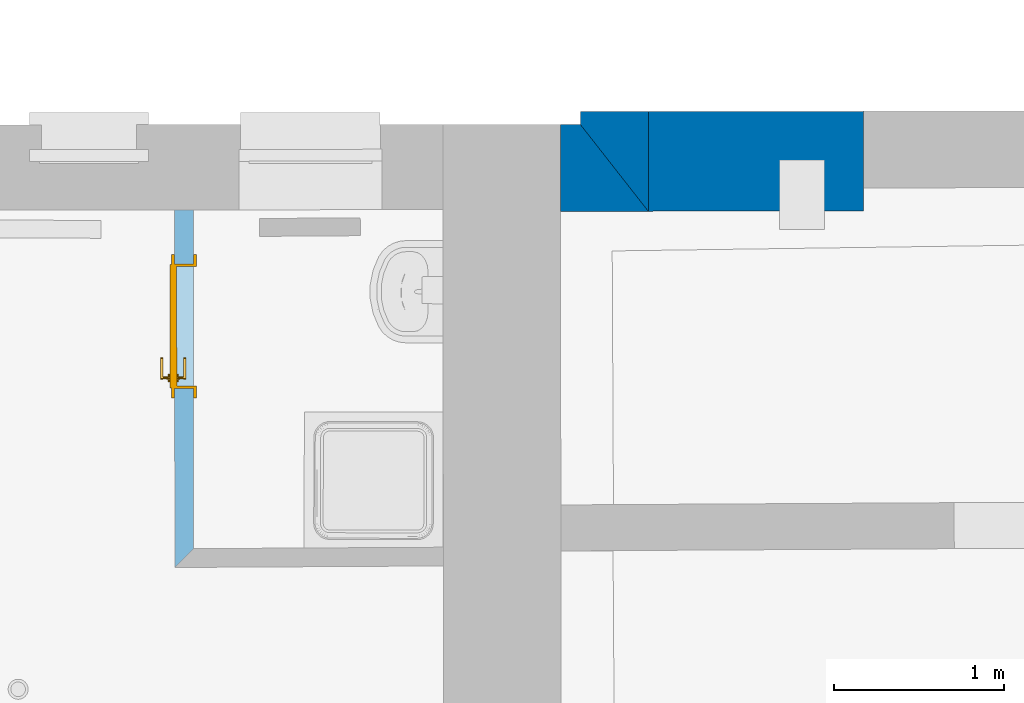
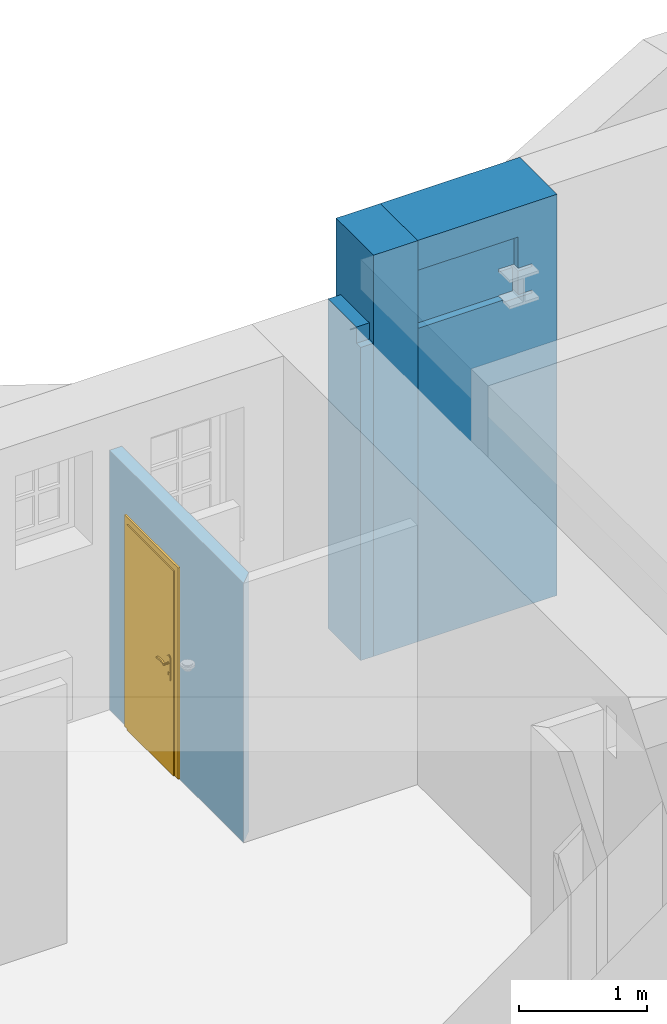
# One storey, part 94 of 196: 3 walls, 1 door, 2 openings, plus 1 element that does not belong to this part.
"""IFC2X3 building model written with IfcOpenShell, lengths in metres."""

from ifc_helpers import new_model, entity, si_unit, converted_unit, derived_unit, money_unit, direction, frame, origin_with_axes, origin_2d_with_axis, place, context, subcontext, project, spatial, polyline, rectangle, outline, extrude, boolean, faceted_brep, material, layer, layer_set, layer_usage, type_object, element, fill, save


model = new_model("IFC2X3")

# Units and contexts
model_context = context("Model", 3, precision=1e-05, world=origin_with_axes(), true_north=direction((0.0, 1.0)))
body_context = subcontext(model_context, "Body", "Model", "MODEL_VIEW")
ifc_project = project(units=[si_unit("LENGTHUNIT", "METRE"), si_unit("AREAUNIT", "SQUARE_METRE"), si_unit("VOLUMEUNIT", "CUBIC_METRE"), converted_unit("PLANEANGLEUNIT", "DEGREE", entity("IfcPlaneAngleMeasure", 0.0174532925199), si_unit("PLANEANGLEUNIT", "RADIAN"), dimensions=[0, 0, 0, 0, 0, 0, 0]), money_unit("EUR"), converted_unit("TIMEUNIT", "Year", entity("IfcTimeMeasure", 31556926.0), si_unit("TIMEUNIT", "SECOND"), dimensions=[0, 0, 1, 0, 0, 0, 0]), si_unit("MASSUNIT", "GRAM", prefix="KILO"), si_unit("THERMODYNAMICTEMPERATUREUNIT", "DEGREE_CELSIUS"), si_unit("LUMINOUSINTENSITYUNIT", "LUMEN"), si_unit("ENERGYUNIT", "JOULE", prefix="MEGA"), derived_unit("THERMALCONDUCTANCEUNIT", [(si_unit("POWERUNIT", "WATT"), 1), (si_unit("LENGTHUNIT", "METRE"), -1), (si_unit("THERMODYNAMICTEMPERATUREUNIT", "KELVIN"), -1)]), derived_unit("SPECIFICHEATCAPACITYUNIT", [(si_unit("ENERGYUNIT", "JOULE"), 1), (si_unit("MASSUNIT", "GRAM", prefix="KILO"), -1), (si_unit("THERMODYNAMICTEMPERATUREUNIT", "KELVIN"), -1)]), derived_unit("MASSDENSITYUNIT", [(si_unit("MASSUNIT", "GRAM", prefix="KILO"), 1), (si_unit("VOLUMEUNIT", "CUBIC_METRE"), -1)])], contexts=[model_context])

# Site, building, storey
site_placement = place(None, origin_with_axes())
site = spatial("IfcSite", under=ifc_project, at=site_placement, Name="Gelände", CompositionType="ELEMENT")
building_placement = place(site_placement, origin_with_axes())
building = spatial("IfcBuilding", under=site, at=building_placement, Name="Gebäude", CompositionType="ELEMENT")
storey_placement = place(building_placement, frame((0.0, 0.0, -3.0), z_axis=(0.0, 0.0, 1.0), x_axis=(1.0, 0.0, 0.0)))
storey = spatial("IfcBuildingStorey", under=building, at=storey_placement, Name="KELLERGESCHOSS", CompositionType="ELEMENT", Elevation=-3.0)

# Wall
ifc_material_1 = material(Name="05_ALLGEMEIN - TRAGENDE BAUTEILE")
wall_type_1 = type_object("IfcWallType", Name="05_ALLGEMEIN - TRAGENDE BAUTEILE 400", PredefinedType="ELEMENTEDWALL")
wall_1_placement = place(storey_placement, frame((3.73053516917, 26.1880653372, -0.36), z_axis=(0.0, 0.0, 1.0), x_axis=(0.0, -1.0, 0.0)))
element("IfcWall", 1, at=wall_1_placement, inside=storey, type_object=wall_type_1, material=ifc_material_1, Name="Wand-037", ObjectType="ELEMENTEDWALL", context=body_context, shape_type="CSG", body=[
    boolean("DIFFERENCE", extrude(outline(polyline([(-0.000666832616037, 0.0), (0.585461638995, 0.0), (0.585461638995, 0.4), (-0.000666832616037, 0.4), (-0.000666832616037, 0.0)])), origin_with_axes(), (0.0, 0.0, 1.0), 3.835), faceted_brep([(0.0744615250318, 0.0, 0.0), (0.584335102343, 0.399326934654, 0.0), (0.584333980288, 0.4, 0.0), (0.585461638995, 0.4, 0.0), (0.585461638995, 0.0, 0.0), (0.0744615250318, 0.0, 3.14999999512), (0.519095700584, 0.348232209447, 3.14999999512), (0.519095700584, 0.348232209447, 2.99482766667), (0.584335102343, 0.399326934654, 2.99482766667), (0.584333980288, 0.4, 2.99482766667), (0.585461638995, 0.4, 3.835), (-0.000666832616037, 0.4, 0.0), (-0.000666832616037, 0.4, 3.835), (0.585461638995, 0.0, 3.835), (0.0744615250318, 0.0, 3.835), (0.0744615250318, 0.0509718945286, 3.14999999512), (0.51908386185, 0.355333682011, 3.14999999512), (0.51908386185, 0.355333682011, 2.99482766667), (0.0, 0.0, 0.0), (0.0, 0.0, 3.14999999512), (-0.000666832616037, 0.0, 0.0), (-0.000666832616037, 0.0, 3.835), (0.0744615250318, 0.0509718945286, 3.835), (0.0, 0.0, 3.835)], [[[0, 1, 2, 3, 4]], [[1, 0, 5, 6, 7, 8]], [[2, 1, 8, 9]], [[10, 3, 2, 11, 12]], [[13, 4, 3, 10]], [[5, 0, 4, 13, 14]], [[6, 5, 15, 16]], [[17, 7, 6, 16]], [[9, 8, 7, 17]], [[18, 2, 9, 17, 16, 15, 19]], [[2, 18, 20, 11]], [[12, 11, 20, 21]], [[22, 14, 13, 10, 12, 21, 23]], [[14, 22, 15, 5]], [[22, 23, 19, 15]], [[19, 23, 21, 20, 18]]])),
])

# Wall, opening
wall_type_2 = type_object("IfcWallType", Name="05_ALLGEMEIN - TRAGENDE BAUTEILE 585", PredefinedType="ELEMENTEDWALL")
wall_2_placement = place(storey_placement, frame((5.3918223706, 26.1908348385, -0.36), z_axis=(0.0, 0.0, 1.0), x_axis=(-0.999998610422, -0.00166707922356, 0.0)))
wall_2 = element("IfcWall", 2, at=wall_2_placement, inside=storey, type_object=wall_type_2, material=ifc_material_1, Name="Wand-036", ObjectType="ELEMENTEDWALL", context=body_context, shape_type="CSG", body=[
    boolean("DIFFERENCE", extrude(outline(polyline([(0.0, 0.0), (1.66226475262, 0.0), (1.66226475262, 0.585), (0.0, 0.585), (0.0, 0.0)])), origin_with_axes(), (0.0, 0.0, 1.0), 3.835), faceted_brep([(0.352188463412, 0.585, 3.2241582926), (0.227438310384, 0.585, 3.2241582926), (0.227438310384, 0.585, 3.2506582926), (0.356306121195, 0.585, 3.2506582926), (0.356306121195, 0.585, 3.55), (1.26226419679, 0.585, 3.55), (1.26226419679, 0.585, 3.835), (1.66226475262, 0.585, 3.835), (1.66226475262, 0.585, 0.0), (1.26226419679, 0.585, 0.0), (1.26226419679, 0.585, 2.99482766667), (0.492438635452, 0.585, 2.99482766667), (0.492438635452, 0.585, 2.9726582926), (0.227438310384, 0.585, 2.9726582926), (0.227438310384, 0.585, 2.9991582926), (0.352188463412, 0.585, 2.9991582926), (0.352656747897, 0.286027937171, 3.2241582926), (0.227906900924, 0.28583253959, 3.2241582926), (0.227906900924, 0.28583253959, 3.2506582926), (0.492906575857, 0.286247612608, 3.2506582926), (0.492540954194, 0.519675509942, 3.2506582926), (0.356306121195, 0.519675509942, 3.2506582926), (0.356306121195, 0.519675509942, 3.55), (1.30682167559, 0.519675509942, 3.55), (1.66128950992, 0.0, 3.835), (1.30682167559, 0.519675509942, 2.99482766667), (1.66128950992, 0.0, 0.0), (1.66226475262, 0.0, 3.835), (1.66226475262, 0.0, 0.0), (0.492540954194, 0.519675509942, 2.99482766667), (0.492540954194, 0.519675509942, 2.9991582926), (0.492906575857, 0.286247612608, 2.9991582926), (0.492906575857, 0.286247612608, 2.9726582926), (0.227906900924, 0.28583253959, 2.9726582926), (0.227906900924, 0.28583253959, 2.9991582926), (0.352656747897, 0.286027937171, 2.9991582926), (0.368156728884, 0.286052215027, 2.9991582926), (0.368156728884, 0.286052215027, 3.2241582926), (0.492906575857, 0.286247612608, 3.2241582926), (0.492540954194, 0.519675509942, 3.2241582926), (0.367790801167, 0.519675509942, 3.2241582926), (0.367790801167, 0.519675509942, 2.9991582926)], [[[0, 1, 2, 3, 4, 5, 6, 7, 8, 9, 10, 11, 12, 13, 14, 15]], [[1, 0, 16, 17]], [[2, 1, 17, 18]], [[3, 2, 18, 19, 20, 21]], [[4, 3, 21, 22]], [[5, 4, 22, 23]], [[24, 6, 5, 23, 25, 10, 9, 26]], [[6, 24, 27, 7]], [[27, 28, 8, 7]], [[26, 9, 8, 28]], [[11, 10, 25, 29]], [[12, 11, 29, 30, 31, 32]], [[13, 12, 32, 33]], [[14, 13, 33, 34]], [[15, 14, 34, 35]], [[0, 15, 35, 16]], [[17, 16, 35, 34, 33, 32, 31, 36, 37, 38, 19, 18]], [[20, 19, 38, 39]], [[20, 39, 40, 41, 30, 29, 25, 23, 22, 21]], [[24, 26, 28, 27]], [[41, 36, 31, 30]], [[40, 37, 36, 41]], [[39, 38, 37, 40]]])),
])
opening_1_placement = place(wall_2_placement, frame((1.09400749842, 0.0, 2.99482766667), z_axis=(0.0, 0.0, 1.0), x_axis=(1.0, 0.0, 0.0)))
element("IfcOpeningElement", 3, at=opening_1_placement, cuts=wall_2, Name="Fenster-019", ObjectType="Recess", context=body_context, shape_type="SweptSolid", body=[
    extrude(rectangle(XDim=1.47851416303, YDim=0.554, at=origin_2d_with_axis()), frame((0.0, 0.519675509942, 0.277), z_axis=(0.0, 1.0, 0.0), x_axis=(-1.0, 0.0, 0.0)), (0.0, 0.0, 1.0), 0.650324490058),
])

# Wall
wall_type_3 = type_object("IfcWallType", Name="05_ALLGEMEIN - TRAGENDE BAUTEILE 511", PredefinedType="ELEMENTEDWALL")
wall_3_placement = place(storey_placement, frame((3.73053516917, 26.1136038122, -0.36), z_axis=(0.0, 0.0, 1.0), x_axis=(-0.99999977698, -0.000667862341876, 0.0)))
element("IfcWall", 4, at=wall_3_placement, inside=storey, type_object=wall_type_3, material=ifc_material_1, Name="Wand-030", ObjectType="ELEMENTEDWALL", context=body_context, shape_type="CSG", body=[
    boolean("DIFFERENCE", extrude(outline(polyline([(-0.400000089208, 0.0), (0.806528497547, 0.0), (0.806528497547, 0.511), (-0.400000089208, 0.511), (-0.400000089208, 0.0)])), origin_with_axes(), (0.0, 0.0, 1.0), 3.14999999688), faceted_brep([(0.116528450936, 0.0, 0.0), (0.116340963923, 0.510655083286, 0.0), (-0.398986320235, 0.510140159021, 0.0), (0.0, 0.0, 0.0), (-0.400000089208, 0.0, 0.0), (-0.400000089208, 0.511, 0.0), (0.806528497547, 0.511, 0.0), (0.806528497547, 0.0, 0.0), (0.116528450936, 0.0, 3.14999999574), (0.116364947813, 0.445330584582, 3.14999999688), (0.116364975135, 0.445330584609, 2.99482766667), (0.116340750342, 0.510655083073, 2.99482766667), (0.116340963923, 0.510655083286, 0.12), (-0.398986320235, 0.510140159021, 2.99482766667), (-0.347935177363, 0.444866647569, 2.99482766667), (-0.347935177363, 0.444866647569, 3.14999999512), (0.0, 0.0, 3.14999999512), (-0.400000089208, 0.0, 3.14999999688), (-0.400000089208, 0.511, 3.14999999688), (0.806528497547, 0.511, 3.14999999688), (0.806528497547, 0.0, 3.14999999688)], [[[0, 1, 2, 3, 4, 5, 6, 7]], [[1, 0, 8, 9, 10, 11, 12]], [[2, 1, 12, 11, 13]], [[3, 2, 13, 14, 15, 16]], [[3, 16, 17, 4]], [[18, 5, 4, 17]], [[19, 6, 5, 18]], [[20, 7, 6, 19]], [[8, 0, 7, 20]], [[9, 8, 20, 19, 18, 17, 16, 15]], [[9, 15, 14, 10]], [[11, 10, 14, 13]]])),
])

# Wall, opening, door
ifc_material_2 = material(Name="43_Gipskarton")
ifc_layer = layer(ifc_material_2, 0.11, ventilated="UNKNOWN")
ifc_layer_set = layer_set([ifc_layer], Name="43_Gipskarton 0.11")
ifc_layer_usage = layer_usage(ifc_layer_set, "AXIS2", "NEGATIVE", 0.0)
wall_type_4 = type_object("IfcWallType", Name="43_Gipskarton 110", PredefinedType="ELEMENTEDWALL")
wall_4_placement = place(storey_placement, frame((1.35013617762, 23.5124330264, -0.04), z_axis=(0.0, 0.0, 1.0), x_axis=(-0.000385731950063, 0.999999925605, 0.0)))
wall_4 = element("IfcWallStandardCase", 5, at=wall_4_placement, inside=storey, type_object=wall_type_4, material=ifc_layer_usage, Name="Wand-039", ObjectType="ELEMENTEDWALL", context=body_context, shape_type="SweptSolid", body=[
    extrude(outline(polyline([(0.110599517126, -0.11), (2.09961154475, -0.11), (2.0995805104, 0.0), (0.0, 0.0), (0.110599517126, -0.11)])), origin_with_axes(), (0.0, 0.0, 1.0), 2.48),
])
opening_2_placement = place(wall_4_placement, frame((1.41617725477, 0.0, 0.00932683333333), z_axis=(0.0, 0.0, 1.0), x_axis=(1.0, 0.0, 0.0)))
opening_2 = element("IfcOpeningElement", 6, at=opening_2_placement, cuts=wall_4, Name="Tür-022", context=body_context, shape_type="SweptSolid", body=[
    extrude(rectangle(XDim=0.732787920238, YDim=1.964951, at=origin_2d_with_axis()), frame((0.0, -0.11, 0.9824755), z_axis=(0.0, 1.0, 0.0), x_axis=(1.0, 0.0, 0.0)), (0.0, 0.0, 1.0), 0.33),
])
door_style = type_object("IfcDoorStyle", Name="Blockrahmentür 1-Fl 25", ConstructionType="NOTDEFINED", OperationType="SINGLE_SWING_RIGHT", ParameterTakesPrecedence=False, Sizeable=False)
door_placement = place(opening_2_placement, frame((-0.351393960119, 0.0, 0.0), z_axis=(0.0, 0.0, 1.0), x_axis=(1.0, 0.0, 0.0)))
door = element("IfcDoor", 7, at=door_placement, inside=storey, type_object=door_style, Name="Tür-022", ObjectType="NOTDEFINED", OverallHeight=1.96495, OverallWidth=0.732788, context=body_context, shape_type="Brep", body=[
    faceted_brep([(0.717787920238, -0.128, 0.0), (0.717787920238, -0.012, 0.0), (0.717787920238, -0.012, 1.964951), (0.717787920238, -0.128, 1.964951), (0.702787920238, -0.128, 0.0), (0.702787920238, -0.012, 0.0), (0.702787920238, -0.012, 1.949951), (0.463493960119, -0.012, 1.949951), (0.351493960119, -0.012, 1.949951), (0.0, -0.012, 1.949951), (0.0, -0.012, 0.0), (-0.015, -0.012, 0.0), (-0.015, -0.012, 1.964951), (-0.015, -0.128, 1.964951), (-0.015, -0.128, 0.0), (0.0, -0.128, 0.0), (0.0, -0.128, 1.949951), (0.351493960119, -0.128, 1.949951), (0.463493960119, -0.128, 1.949951), (0.702787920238, -0.128, 1.949951)], [[[0, 1, 2, 3]], [[4, 5, 1, 0]], [[1, 5, 6, 7, 8, 9, 10, 11, 12, 2]], [[3, 2, 12, 13]], [[0, 3, 13, 14, 15, 16, 17, 18, 19, 4]], [[19, 6, 5, 4]], [[18, 7, 6, 19]], [[17, 8, 7, 18]], [[16, 9, 8, 17]], [[15, 10, 9, 16]], [[14, 11, 10, 15]], [[13, 12, 11, 14]]]),
    faceted_brep([(0.717787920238, -0.012, 0.0), (0.717787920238, 0.018, 0.0), (0.717787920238, 0.018, 1.964951), (0.717787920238, -0.012, 1.964951), (0.714787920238, -0.012, 0.0), (0.714787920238, 0.018, 0.0), (0.714787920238, 0.018, 1.961951), (0.451493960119, 0.018, 1.961951), (0.363493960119, 0.018, 1.961951), (-0.012, 0.018, 1.961951), (-0.012, 0.018, 0.0), (-0.015, 0.018, 0.0), (-0.015, 0.018, 1.964951), (-0.015, -0.012, 1.964951), (-0.015, -0.012, 0.0), (-0.012, -0.012, 0.0), (-0.012, -0.012, 1.961951), (0.363493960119, -0.012, 1.961951), (0.451493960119, -0.012, 1.961951), (0.714787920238, -0.012, 1.961951)], [[[0, 1, 2, 3]], [[4, 5, 1, 0]], [[1, 5, 6, 7, 8, 9, 10, 11, 12, 2]], [[3, 2, 12, 13]], [[0, 3, 13, 14, 15, 16, 17, 18, 19, 4]], [[19, 6, 5, 4]], [[18, 7, 6, 19]], [[17, 8, 7, 18]], [[16, 9, 8, 17]], [[15, 10, 9, 16]], [[14, 11, 10, 15]], [[13, 12, 11, 14]]]),
    faceted_brep([(0.772787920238, -0.128, 0.0), (0.772787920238, -0.11, 0.0), (0.772787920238, -0.11, 2.019951), (0.772787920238, -0.128, 2.019951), (0.717787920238, -0.128, 0.0), (0.717787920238, -0.11, 0.0), (0.717787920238, -0.11, 1.964951), (-0.015, -0.11, 1.964951), (-0.015, -0.11, 0.0), (-0.07, -0.11, 0.0), (-0.07, -0.11, 2.019951), (-0.07, -0.128, 2.019951), (-0.07, -0.128, 0.0), (-0.015, -0.128, 0.0), (-0.015, -0.128, 1.964951), (0.717787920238, -0.128, 1.964951)], [[[0, 1, 2, 3]], [[4, 5, 1, 0]], [[1, 5, 6, 7, 8, 9, 10, 2]], [[3, 2, 10, 11]], [[0, 3, 11, 12, 13, 14, 15, 4]], [[15, 6, 5, 4]], [[14, 7, 6, 15]], [[13, 8, 7, 14]], [[12, 9, 8, 13]], [[11, 10, 9, 12]]]),
    faceted_brep([(0.772787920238, 0.0, 0.0), (0.772787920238, 0.018, 0.0), (0.772787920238, 0.018, 2.019951), (0.772787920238, 0.0, 2.019951), (0.717787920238, 0.0, 0.0), (0.717787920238, 0.018, 0.0), (0.717787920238, 0.018, 1.964951), (-0.015, 0.018, 1.964951), (-0.015, 0.018, 0.0), (-0.07, 0.018, 0.0), (-0.07, 0.018, 2.019951), (-0.07, 0.0, 2.019951), (-0.07, 0.0, 0.0), (-0.015, 0.0, 0.0), (-0.015, 0.0, 1.964951), (0.717787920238, 0.0, 1.964951)], [[[0, 1, 2, 3]], [[4, 5, 1, 0]], [[1, 5, 6, 7, 8, 9, 10, 2]], [[3, 2, 10, 11]], [[0, 3, 11, 12, 13, 14, 15, 4]], [[15, 6, 5, 4]], [[14, 7, 6, 15]], [[13, 8, 7, 14]], [[12, 9, 8, 13]], [[11, 10, 9, 12]]]),
    faceted_brep([(0.714787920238, 0.028, 0.0), (-0.012, 0.028, 0.0), (-0.012, 0.028, 1.961951), (0.714787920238, 0.028, 1.961951), (0.714787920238, -0.012, 0.0), (-0.012, -0.012, 0.0), (-0.012, -0.012, 1.961951), (0.714787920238, -0.012, 1.961951)], [[[0, 1, 2, 3]], [[1, 0, 4, 5]], [[2, 1, 5, 6]], [[3, 2, 6, 7]], [[0, 3, 7, 4]], [[5, 4, 7, 6]]]),
    faceted_brep([(0.0432977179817, -0.052, 1.05647213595), (0.048, -0.052, 1.058), (0.048, -0.032, 1.058), (0.0432977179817, -0.032, 1.05647213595), (0.0403915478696, -0.052, 1.05247213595), (0.0403915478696, -0.052, 1.04752786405), (0.0432977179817, -0.052, 1.04352786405), (0.048, -0.052, 1.042), (0.0527022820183, -0.052, 1.04352786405), (0.0556084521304, -0.052, 1.04752786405), (0.0556084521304, -0.052, 1.05247213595), (0.0527022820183, -0.052, 1.05647213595), (0.0527022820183, -0.032, 1.05647213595), (0.048, -0.03, 1.06), (0.0421221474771, -0.03, 1.05809016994), (0.0403915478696, -0.032, 1.05247213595), (0.0403915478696, -0.032, 1.04752786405), (0.0432977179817, -0.032, 1.04352786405), (0.048, -0.032, 1.042), (0.0527022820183, -0.032, 1.04352786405), (0.0556084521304, -0.032, 1.04752786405), (0.0556084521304, -0.032, 1.05247213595), (0.0538778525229, -0.03, 1.05809016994), (0.048, -0.022, 1.06), (0.0421221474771, -0.022, 1.05809016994), (0.038489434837, -0.03, 1.05309016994), (0.038489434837, -0.03, 1.04690983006), (0.0421221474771, -0.03, 1.04190983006), (0.048, -0.03, 1.04), (0.0538778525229, -0.03, 1.04190983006), (0.0575105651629, -0.03, 1.04690983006), (0.0575105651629, -0.03, 1.05309016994), (0.0538778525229, -0.022, 1.05809016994), (0.0575105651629, -0.022, 1.05309016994), (0.0575105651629, -0.022, 1.04690983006), (0.0538778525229, -0.022, 1.04190983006), (0.048, -0.022, 1.04), (0.0421221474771, -0.022, 1.04190983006), (0.038489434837, -0.022, 1.04690983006), (0.038489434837, -0.022, 1.05309016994)], [[[0, 1, 2, 3]], [[1, 0, 4, 5, 6, 7, 8, 9, 10, 11]], [[1, 11, 12, 2]], [[3, 2, 13, 14]], [[4, 0, 3, 15]], [[5, 4, 15, 16]], [[6, 5, 16, 17]], [[7, 6, 17, 18]], [[8, 7, 18, 19]], [[9, 8, 19, 20]], [[10, 9, 20, 21]], [[11, 10, 21, 12]], [[2, 12, 22, 13]], [[14, 13, 23, 24]], [[15, 3, 14, 25]], [[16, 15, 25, 26]], [[17, 16, 26, 27]], [[18, 17, 27, 28]], [[19, 18, 28, 29]], [[20, 19, 29, 30]], [[21, 20, 30, 31]], [[12, 21, 31, 22]], [[13, 22, 32, 23]], [[23, 32, 33, 34, 35, 36, 37, 38, 39, 24]], [[25, 14, 24, 39]], [[26, 25, 39, 38]], [[27, 26, 38, 37]], [[28, 27, 37, 36]], [[29, 28, 36, 35]], [[30, 29, 35, 34]], [[31, 30, 34, 33]], [[22, 31, 33, 32]]]),
    faceted_brep([(0.0601883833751, -0.022, 1.11759695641), (0.0524435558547, -0.022, 1.12195567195), (0.0435564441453, -0.022, 1.12195567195), (0.0358116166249, -0.022, 1.11759695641), (0.0312, -0.022, 1.11), (0.0255, -0.022, 1.11), (0.0255, -0.022, 0.89), (0.0312, -0.022, 0.89), (0.0358116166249, -0.022, 0.882403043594), (0.0435564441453, -0.022, 0.878044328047), (0.0524435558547, -0.022, 0.878044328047), (0.0601883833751, -0.022, 0.882403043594), (0.0648, -0.022, 0.89), (0.0705, -0.022, 0.89), (0.0705, -0.022, 1.11), (0.0648, -0.022, 1.11), (0.048, -0.022, 0.967425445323), (0.053375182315, -0.022, 0.965143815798), (0.0554678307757, -0.022, 0.959692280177), (0.053, -0.022, 0.9544), (0.053, -0.022, 0.9375), (0.0515355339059, -0.022, 0.933964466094), (0.048, -0.022, 0.9325), (0.0444644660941, -0.022, 0.933964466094), (0.043, -0.022, 0.9375), (0.043, -0.022, 0.9544), (0.0405321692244, -0.022, 0.959692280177), (0.042624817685, -0.022, 0.965143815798), (0.0601883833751, -0.012, 1.11759695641), (0.0524435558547, -0.012, 1.12195567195), (0.0435564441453, -0.012, 1.12195567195), (0.0358116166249, -0.012, 1.11759695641), (0.0312, -0.012, 1.11), (0.0255, -0.012, 1.11), (0.0255, -0.012, 0.89), (0.0312, -0.012, 0.89), (0.0358116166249, -0.012, 0.882403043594), (0.0435564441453, -0.012, 0.878044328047), (0.0524435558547, -0.012, 0.878044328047), (0.0601883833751, -0.012, 0.882403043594), (0.0648, -0.012, 0.89), (0.0705, -0.012, 0.89), (0.0705, -0.012, 1.11), (0.0648, -0.012, 1.11), (0.048, -0.012, 0.967425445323), (0.0533751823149, -0.012, 0.965143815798), (0.0554678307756, -0.012, 0.959692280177), (0.053, -0.012, 0.9544), (0.053, -0.012, 0.9375), (0.0515355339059, -0.012, 0.933964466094), (0.048, -0.012, 0.9325), (0.0444644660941, -0.012, 0.933964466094), (0.043, -0.012, 0.9375), (0.043, -0.012, 0.9544), (0.0405321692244, -0.012, 0.959692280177), (0.042624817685, -0.012, 0.965143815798)], [[[0, 1, 2, 3, 4, 5, 6, 7, 8, 9, 10, 11, 12, 13, 14, 15], [16, 17, 18, 19, 20, 21, 22, 23, 24, 25, 26, 27]], [[1, 0, 28, 29]], [[2, 1, 29, 30]], [[3, 2, 30, 31]], [[4, 3, 31, 32]], [[5, 4, 32, 33]], [[6, 5, 33, 34]], [[7, 6, 34, 35]], [[8, 7, 35, 36]], [[9, 8, 36, 37]], [[10, 9, 37, 38]], [[11, 10, 38, 39]], [[12, 11, 39, 40]], [[13, 12, 40, 41]], [[14, 13, 41, 42]], [[15, 14, 42, 43]], [[0, 15, 43, 28]], [[17, 16, 44, 45]], [[18, 17, 45, 46]], [[19, 18, 46, 47]], [[19, 47, 48, 20]], [[20, 48, 49, 21]], [[21, 49, 50, 22]], [[22, 50, 51, 23]], [[23, 51, 52, 24]], [[53, 25, 24, 52]], [[26, 25, 53, 54]], [[27, 26, 54, 55]], [[16, 27, 55, 44]], [[40, 39, 38, 37, 36, 35, 34, 33, 32, 31, 30, 29, 28, 43, 42, 41], [54, 53, 52, 51, 50, 49, 48, 47, 46, 45, 44, 55]]]),
    faceted_brep([(0.162253, -0.052, 1.057158), (0.162253, -0.067, 1.057158), (0.162254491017, -0.067, 1.05719388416), (0.162254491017, -0.052, 1.05719388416), (0.135225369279, -0.052, 1.06432652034), (0.135225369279, -0.067, 1.06432652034), (0.107397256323, -0.067, 1.06706086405), (0.0794912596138, -0.067, 1.06529002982), (0.052232, -0.067, 1.05906), (0.0458294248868, -0.067, 1.05976125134), (0.0403273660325, -0.067, 1.05641280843), (0.0380084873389, -0.067, 1.05040385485), (0.0398348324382, -0.067, 1.04422735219), (0.0450486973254, -0.067, 1.04044577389), (0.0514869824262, -0.067, 1.04062800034), (0.0564786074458, -0.067, 1.04469843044), (0.056458, -0.067, 1.044666), (0.0817467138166, -0.067, 1.05019878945), (0.107589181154, -0.067, 1.05171460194), (0.133351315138, -0.067, 1.04917624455), (0.158401, -0.067, 1.042646), (0.163944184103, -0.067, 1.04356849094), (0.16730572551, -0.067, 1.04807159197), (0.166614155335, -0.067, 1.05364829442), (0.166614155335, -0.052, 1.05364829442), (0.16730572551, -0.052, 1.04807159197), (0.163944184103, -0.052, 1.04356849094), (0.158401, -0.052, 1.042646), (0.133351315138, -0.052, 1.04917624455), (0.107589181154, -0.052, 1.05171460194), (0.0817467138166, -0.052, 1.05019878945), (0.056458, -0.052, 1.044666), (0.0564786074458, -0.052, 1.04469843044), (0.0514869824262, -0.052, 1.04062800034), (0.0450486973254, -0.052, 1.04044577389), (0.0398348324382, -0.052, 1.04422735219), (0.0380084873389, -0.052, 1.05040385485), (0.0403273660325, -0.052, 1.05641280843), (0.0458294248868, -0.052, 1.05976125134), (0.052232, -0.052, 1.05906), (0.0794912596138, -0.052, 1.06529002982), (0.107397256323, -0.052, 1.06706086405)], [[[0, 1, 2, 3]], [[4, 5, 1, 0]], [[1, 5, 6, 7, 8, 9, 10, 11, 12, 13, 14, 15, 16, 17, 18, 19, 20, 21, 22, 23, 2]], [[3, 2, 23, 24]], [[0, 3, 24, 25, 26, 27, 28, 29, 30, 31, 32, 33, 34, 35, 36, 37, 38, 39, 40, 41, 4]], [[41, 6, 5, 4]], [[40, 7, 6, 41]], [[39, 8, 7, 40]], [[38, 9, 8, 39]], [[37, 10, 9, 38]], [[36, 11, 10, 37]], [[35, 12, 11, 36]], [[34, 13, 12, 35]], [[33, 14, 13, 34]], [[32, 15, 14, 33]], [[31, 16, 15, 32]], [[30, 17, 16, 31]], [[29, 18, 17, 30]], [[28, 19, 18, 29]], [[27, 20, 19, 28]], [[26, 21, 20, 27]], [[25, 22, 21, 26]], [[24, 23, 22, 25]]]),
    faceted_brep([(0.0432977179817, 0.068, 1.05647213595), (0.0432977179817, 0.048, 1.05647213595), (0.048, 0.048, 1.058), (0.048, 0.068, 1.058), (0.0403915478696, 0.068, 1.05247213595), (0.0403915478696, 0.048, 1.05247213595), (0.0421221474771, 0.046, 1.05809016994), (0.048, 0.046, 1.06), (0.0527022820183, 0.048, 1.05647213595), (0.0527022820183, 0.068, 1.05647213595), (0.0556084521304, 0.068, 1.05247213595), (0.0556084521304, 0.068, 1.04752786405), (0.0527022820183, 0.068, 1.04352786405), (0.048, 0.068, 1.042), (0.0432977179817, 0.068, 1.04352786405), (0.0403915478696, 0.068, 1.04752786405), (0.0403915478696, 0.048, 1.04752786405), (0.038489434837, 0.046, 1.05309016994), (0.0421221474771, 0.038, 1.05809016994), (0.048, 0.038, 1.06), (0.0538778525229, 0.046, 1.05809016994), (0.0556084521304, 0.048, 1.05247213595), (0.0556084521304, 0.048, 1.04752786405), (0.0527022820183, 0.048, 1.04352786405), (0.048, 0.048, 1.042), (0.0432977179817, 0.048, 1.04352786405), (0.038489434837, 0.046, 1.04690983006), (0.038489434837, 0.038, 1.05309016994), (0.038489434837, 0.038, 1.04690983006), (0.0421221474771, 0.038, 1.04190983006), (0.048, 0.038, 1.04), (0.0538778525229, 0.038, 1.04190983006), (0.0575105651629, 0.038, 1.04690983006), (0.0575105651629, 0.038, 1.05309016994), (0.0538778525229, 0.038, 1.05809016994), (0.0575105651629, 0.046, 1.05309016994), (0.0575105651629, 0.046, 1.04690983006), (0.0538778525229, 0.046, 1.04190983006), (0.048, 0.046, 1.04), (0.0421221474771, 0.046, 1.04190983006)], [[[0, 1, 2, 3]], [[4, 5, 1, 0]], [[1, 6, 7, 2]], [[3, 2, 8, 9]], [[3, 9, 10, 11, 12, 13, 14, 15, 4, 0]], [[15, 16, 5, 4]], [[5, 17, 6, 1]], [[6, 18, 19, 7]], [[2, 7, 20, 8]], [[9, 8, 21, 10]], [[10, 21, 22, 11]], [[11, 22, 23, 12]], [[12, 23, 24, 13]], [[13, 24, 25, 14]], [[14, 25, 16, 15]], [[16, 26, 17, 5]], [[17, 27, 18, 6]], [[19, 18, 27, 28, 29, 30, 31, 32, 33, 34]], [[7, 19, 34, 20]], [[8, 20, 35, 21]], [[21, 35, 36, 22]], [[22, 36, 37, 23]], [[23, 37, 38, 24]], [[24, 38, 39, 25]], [[25, 39, 26, 16]], [[26, 28, 27, 17]], [[39, 29, 28, 26]], [[38, 30, 29, 39]], [[37, 31, 30, 38]], [[36, 32, 31, 37]], [[35, 33, 32, 36]], [[20, 34, 33, 35]]]),
    faceted_brep([(0.0601883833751, 0.028, 1.11759695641), (0.0524435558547, 0.028, 1.12195567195), (0.0435564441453, 0.028, 1.12195567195), (0.0358116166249, 0.028, 1.11759695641), (0.0312, 0.028, 1.11), (0.0255, 0.028, 1.11), (0.0255, 0.028, 0.89), (0.0312, 0.028, 0.89), (0.0358116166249, 0.028, 0.882403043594), (0.0435564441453, 0.028, 0.878044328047), (0.0524435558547, 0.028, 0.878044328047), (0.0601883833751, 0.028, 0.882403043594), (0.0648, 0.028, 0.89), (0.0705, 0.028, 0.89), (0.0705, 0.028, 1.11), (0.0648, 0.028, 1.11), (0.048, 0.028, 0.967425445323), (0.053375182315, 0.028, 0.965143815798), (0.0554678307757, 0.028, 0.959692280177), (0.053, 0.028, 0.9544), (0.053, 0.028, 0.9375), (0.0515355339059, 0.028, 0.933964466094), (0.048, 0.028, 0.9325), (0.0444644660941, 0.028, 0.933964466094), (0.043, 0.028, 0.9375), (0.043, 0.028, 0.9544), (0.0405321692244, 0.028, 0.959692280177), (0.042624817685, 0.028, 0.965143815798), (0.0524435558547, 0.038, 1.12195567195), (0.0601883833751, 0.038, 1.11759695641), (0.0435564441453, 0.038, 1.12195567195), (0.0358116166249, 0.038, 1.11759695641), (0.0312, 0.038, 1.11), (0.0255, 0.038, 1.11), (0.0255, 0.038, 0.89), (0.0312, 0.038, 0.89), (0.0358116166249, 0.038, 0.882403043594), (0.0435564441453, 0.038, 0.878044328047), (0.0524435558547, 0.038, 0.878044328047), (0.0601883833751, 0.038, 0.882403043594), (0.0648, 0.038, 0.89), (0.0705, 0.038, 0.89), (0.0705, 0.038, 1.11), (0.0648, 0.038, 1.11), (0.048, 0.038, 0.967425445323), (0.053375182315, 0.038, 0.965143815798), (0.0554678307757, 0.038, 0.959692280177), (0.053, 0.038, 0.9544), (0.053, 0.038, 0.9375), (0.0515355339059, 0.038, 0.933964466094), (0.048, 0.038, 0.9325), (0.0444644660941, 0.038, 0.933964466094), (0.043, 0.038, 0.9375), (0.043, 0.038, 0.9544), (0.0405321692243, 0.038, 0.959692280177), (0.042624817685, 0.038, 0.965143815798)], [[[0, 1, 2, 3, 4, 5, 6, 7, 8, 9, 10, 11, 12, 13, 14, 15], [16, 17, 18, 19, 20, 21, 22, 23, 24, 25, 26, 27]], [[28, 1, 0, 29]], [[30, 2, 1, 28]], [[31, 3, 2, 30]], [[32, 4, 3, 31]], [[33, 5, 4, 32]], [[34, 6, 5, 33]], [[35, 7, 6, 34]], [[36, 8, 7, 35]], [[37, 9, 8, 36]], [[38, 10, 9, 37]], [[39, 11, 10, 38]], [[40, 12, 11, 39]], [[41, 13, 12, 40]], [[42, 14, 13, 41]], [[43, 15, 14, 42]], [[29, 0, 15, 43]], [[17, 16, 44, 45]], [[18, 17, 45, 46]], [[19, 18, 46, 47]], [[19, 47, 48, 20]], [[20, 48, 49, 21]], [[21, 49, 50, 22]], [[22, 50, 51, 23]], [[23, 51, 52, 24]], [[53, 25, 24, 52]], [[26, 25, 53, 54]], [[27, 26, 54, 55]], [[16, 27, 55, 44]], [[40, 39, 38, 37, 36, 35, 34, 33, 32, 31, 30, 28, 29, 43, 42, 41], [54, 53, 52, 51, 50, 49, 48, 47, 46, 45, 44, 55]]]),
    faceted_brep([(0.162253, 0.068, 1.057158), (0.162254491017, 0.068, 1.05719388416), (0.162254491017, 0.083, 1.05719388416), (0.162253, 0.083, 1.057158), (0.135225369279, 0.068, 1.06432652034), (0.107397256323, 0.068, 1.06706086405), (0.0794912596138, 0.068, 1.06529002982), (0.052232, 0.068, 1.05906), (0.0458294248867, 0.068, 1.05976125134), (0.0403273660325, 0.068, 1.05641280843), (0.0380084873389, 0.068, 1.05040385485), (0.0398348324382, 0.068, 1.04422735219), (0.0450486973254, 0.068, 1.04044577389), (0.0514869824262, 0.068, 1.04062800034), (0.0564786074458, 0.068, 1.04469843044), (0.056458, 0.068, 1.044666), (0.0817467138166, 0.068, 1.05019878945), (0.107589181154, 0.068, 1.05171460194), (0.133351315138, 0.068, 1.04917624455), (0.158401, 0.068, 1.042646), (0.163944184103, 0.068, 1.04356849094), (0.16730572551, 0.068, 1.04807159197), (0.166614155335, 0.068, 1.05364829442), (0.166614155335, 0.083, 1.05364829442), (0.16730572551, 0.083, 1.04807159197), (0.163944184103, 0.083, 1.04356849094), (0.158401, 0.083, 1.042646), (0.133351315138, 0.083, 1.04917624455), (0.107589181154, 0.083, 1.05171460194), (0.0817467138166, 0.083, 1.05019878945), (0.056458, 0.083, 1.044666), (0.0564786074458, 0.083, 1.04469843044), (0.0514869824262, 0.083, 1.04062800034), (0.0450486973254, 0.083, 1.04044577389), (0.0398348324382, 0.083, 1.04422735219), (0.0380084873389, 0.083, 1.05040385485), (0.0403273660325, 0.083, 1.05641280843), (0.0458294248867, 0.083, 1.05976125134), (0.052232, 0.083, 1.05906), (0.0794912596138, 0.083, 1.06529002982), (0.107397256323, 0.083, 1.06706086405), (0.135225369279, 0.083, 1.06432652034)], [[[0, 1, 2, 3]], [[0, 4, 5, 6, 7, 8, 9, 10, 11, 12, 13, 14, 15, 16, 17, 18, 19, 20, 21, 22, 1]], [[1, 22, 23, 2]], [[3, 2, 23, 24, 25, 26, 27, 28, 29, 30, 31, 32, 33, 34, 35, 36, 37, 38, 39, 40, 41]], [[4, 0, 3, 41]], [[5, 4, 41, 40]], [[6, 5, 40, 39]], [[7, 6, 39, 38]], [[8, 7, 38, 37]], [[9, 8, 37, 36]], [[10, 9, 36, 35]], [[11, 10, 35, 34]], [[12, 11, 34, 33]], [[13, 12, 33, 32]], [[14, 13, 32, 31]], [[15, 14, 31, 30]], [[16, 15, 30, 29]], [[17, 16, 29, 28]], [[18, 17, 28, 27]], [[19, 18, 27, 26]], [[20, 19, 26, 25]], [[21, 20, 25, 24]], [[22, 21, 24, 23]]]),
])
fill(opening_2, door)

save(model, "model.ifc")
